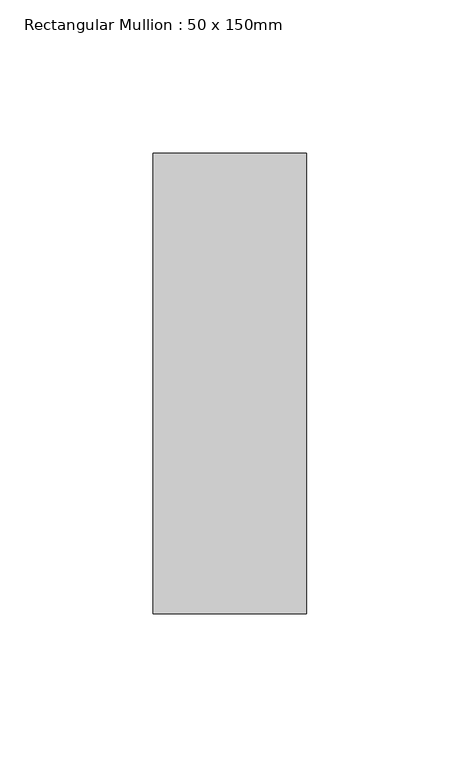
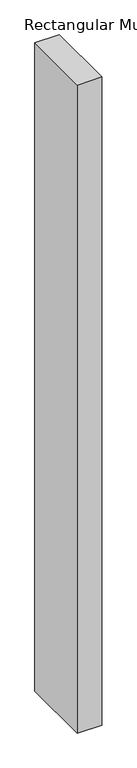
"""IFC4 building model written with IfcOpenShell, lengths in millimetres: member geometry, Rectangular Mullion : 50 x 150mm."""

from ifc_helpers import new_model, si_unit, frame, origin, place, context, project, spatial, polyline, outline, extrude, source, transform, mapped, element, save


def rectangular_mullion_50_x_150mm_0b48c596(model_context):
    return source(origin(), model_context, "Body", "SweptSolid", [
        extrude(outline(polyline([(0.0, 75.0), (0.0, -75.0), (-50.0, -75.0), (-50.0, 75.0), (0.0, 75.0)])), frame((0.0, 0.0, -1402.9999997), z_axis=(0.0, 0.0, 1.0), x_axis=(1.0, 0.0, 0.0)), (0.0, 0.0, 1.0), 1402.9999997),
    ])


if __name__ == "__main__":
    model = new_model("IFC4")
    model_context = context("Model", 3, world=origin())
    ifc_project = project(units=[si_unit("LENGTHUNIT", "METRE", prefix="MILLI")], contexts=[model_context])
    site = spatial("IfcSite", under=ifc_project)
    building = spatial("IfcBuilding", under=site)
    placement = place(None, origin())
    rectangular_mullion_50_x_150mm_shape = rectangular_mullion_50_x_150mm_0b48c596(model_context)
    element("IfcMember", 1, ObjectType="Rectangular Mullion : 50 x 150mm", at=placement, inside=building, context=model_context, shape_type="MappedRepresentation", body=[
        mapped(rectangular_mullion_50_x_150mm_shape, transform((0.0, 0.0, 0.0), x_axis=(1.0, 0.0, 0.0), y_axis=(0.0, 1.0, 0.0), z_axis=(0.0, 0.0, 1.0))),
    ])
    save(model, "model.ifc")
